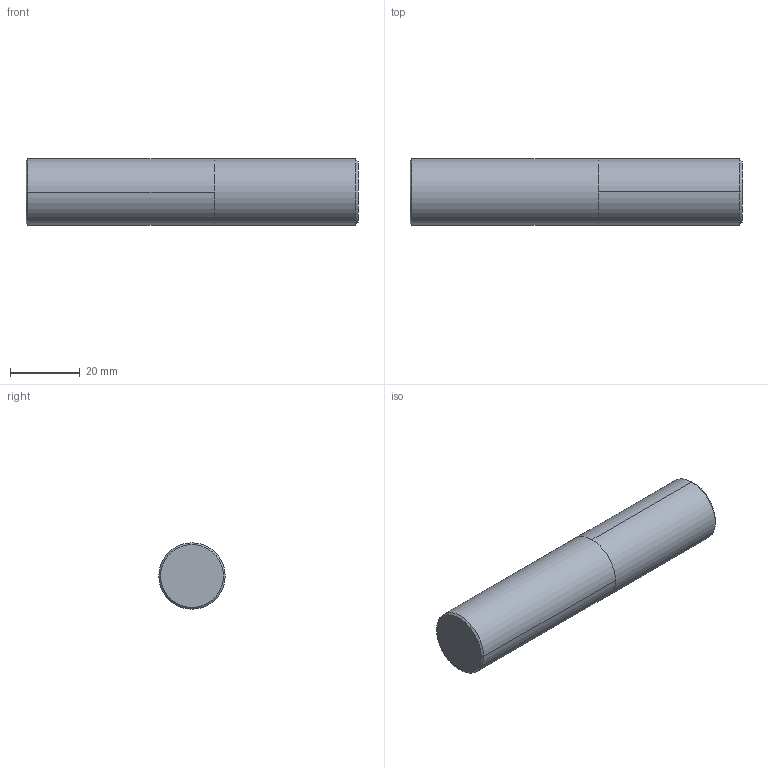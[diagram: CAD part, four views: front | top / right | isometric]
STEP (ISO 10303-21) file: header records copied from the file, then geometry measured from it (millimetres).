
FILE_DESCRIPTION (( 'STEP AP214' ), '1' );
FILE_NAME ('E2170901.STEP', '2018-08-08T06:45:11', ( 'USER' ), ( '' ), 'SwSTEP 2.0', 'SolidWorks 2014', '' );
FILE_SCHEMA (( 'AUTOMOTIVE_DESIGN' ));
Length unit declared in the file: millimetre
Products named in the file (1): E2170901
Bounding box: 95.25 x 19.05 x 19.05 mm (x, y, z)
Volume: 27124.2 mm3; surface area: 6795.2 mm2
Topology: 2 solids, 2 shells, 12 faces, 20 edges, 12 vertices
Faces by surface type: cylinder 4, cone 4, plane 4
Entity records: 393 total; most frequent: DIRECTION 58, CARTESIAN_POINT 45, ORIENTED_EDGE 40, AXIS2_PLACEMENT_3D 25, EDGE_CURVE 20, ADVANCED_FACE 12, CIRCLE 12, EDGE_LOOP 12
